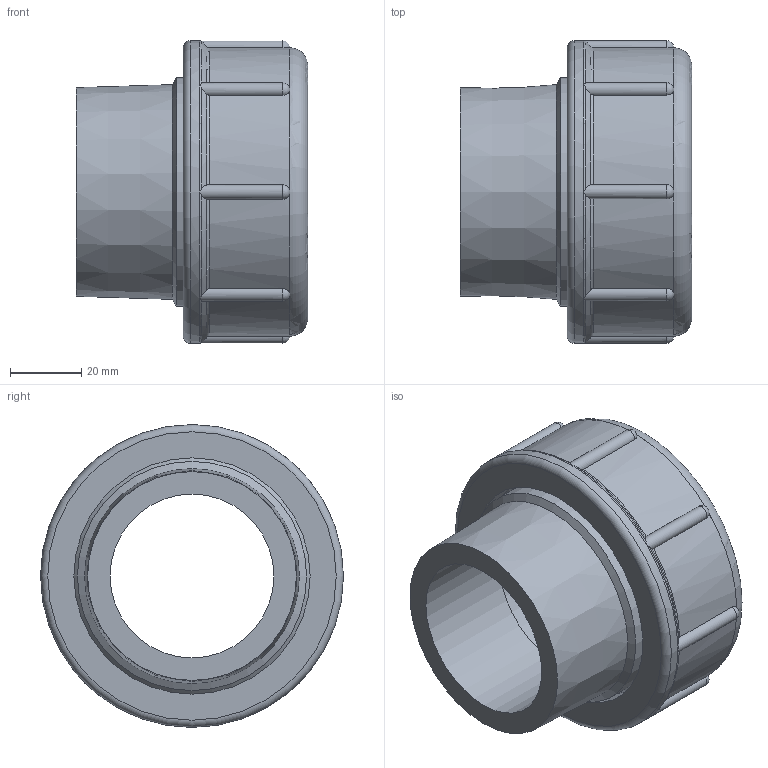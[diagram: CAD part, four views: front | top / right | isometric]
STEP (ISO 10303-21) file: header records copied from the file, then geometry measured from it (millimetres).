
FILE_DESCRIPTION( ( 'STEP AP214' ), '1' );
FILE_NAME( 'C:/Users/ilukic/Documents/ex/gebaudeentwasserung/pe/Geberit PE straight adapter with male thread and compression joint/359311.stp', '2020-03-26T18:42:12', ( '' ), ( '' ), ' ', 'PARTsolutions', ' ' );
FILE_SCHEMA( ( 'AUTOMOTIVE_DESIGN { 1 0 10303 214 1 1 1 1 }' ) );
Length unit declared in the file: millimetre
Products named in the file (1): _359311
Bounding box: 65 x 85 x 85 mm (x, y, z)
Volume: 129497.4 mm3; surface area: 35310.7 mm2
Topology: 1 solids, 1 shells, 68 faces, 170 edges, 99 vertices
Faces by surface type: cylinder 23, torus 20, cone 12, sphere 8, plane 5
Full cylindrical faces by diameter (mm): 46 x1, 55.6 x2, 61.6 x1, 64.368 x1, 66.368 x1, 85 x1
Entity records: 2886 total; most frequent: CARTESIAN_POINT 883, ORIENTED_EDGE 294, DIRECTION 288, EDGE_CURVE 147, AXIS2_PLACEMENT_3D 136, VERTEX_POINT 99, EDGE_LOOP 88, FACE_OUTER_BOUND 79
